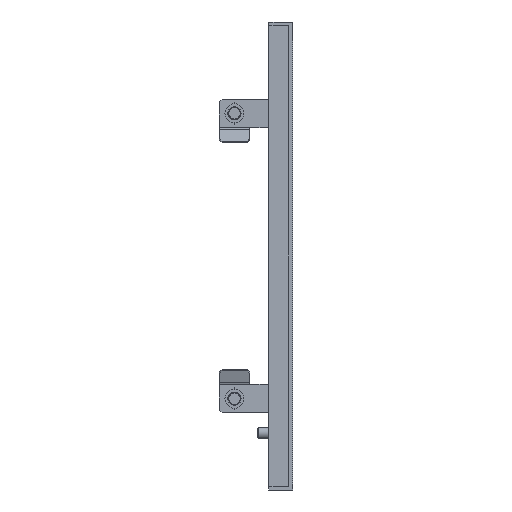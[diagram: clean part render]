
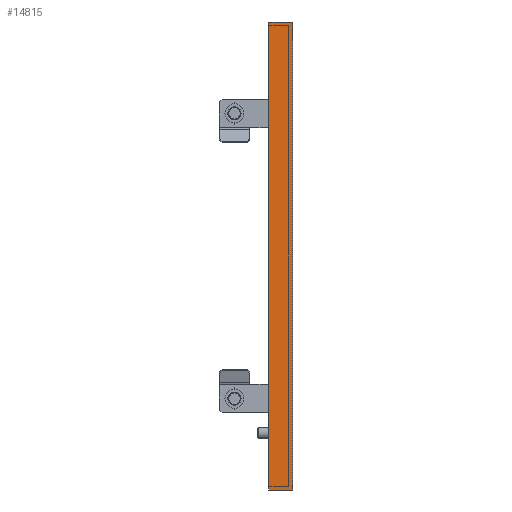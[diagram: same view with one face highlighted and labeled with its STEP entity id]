
A CAD part, front view. The second image highlights one B-rep face of the part: STEP entity #14815.
In plain terms, the highlighted planar face has unit normal (0, -1, 0).
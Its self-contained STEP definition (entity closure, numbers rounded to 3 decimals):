
#689 = VERTEX_POINT ( 'NONE', #23886 ) ;
#1196 = EDGE_CURVE ( 'NONE', #689, #12538, #15122, .T. ) ;
#1793 = CARTESIAN_POINT ( 'NONE',  ( -12.5, -297.5, 0. ) ) ;
#2261 = DIRECTION ( 'NONE',  ( 1., 0., 0. ) ) ;
#2429 = ORIENTED_EDGE ( 'NONE', *, *, #17922, .F. ) ;
#4164 = PLANE ( 'NONE',  #5028 ) ;
#4365 = VECTOR ( 'NONE', #11868, 1000. ) ;
#4954 = EDGE_CURVE ( 'NONE', #14765, #689, #13671, .T. ) ;
#5028 = AXIS2_PLACEMENT_3D ( 'NONE', #11986, #19793, #2261 ) ;
#6787 = CARTESIAN_POINT ( 'NONE',  ( -12.5, -297.5, -123. ) ) ;
#7789 = LINE ( 'NONE', #1793, #15225 ) ;
#8147 = VECTOR ( 'NONE', #12710, 1000. ) ;
#8512 = EDGE_LOOP ( 'NONE', ( #2429, #23612, #18783, #16522 ) ) ;
#11868 = DIRECTION ( 'NONE',  ( 0., 0., 1. ) ) ;
#11986 = CARTESIAN_POINT ( 'NONE',  ( -2., -297.5, 0. ) ) ;
#12538 = VERTEX_POINT ( 'NONE', #16699 ) ;
#12710 = DIRECTION ( 'NONE',  ( -1., 0., 0. ) ) ;
#13207 = CARTESIAN_POINT ( 'NONE',  ( 2.928, -297.5, 123. ) ) ;
#13671 = LINE ( 'NONE', #13919, #4365 ) ;
#13919 = CARTESIAN_POINT ( 'NONE',  ( 0., -297.5, 0. ) ) ;
#14483 = VECTOR ( 'NONE', #15387, 1000. ) ;
#14765 = VERTEX_POINT ( 'NONE', #19658 ) ;
#14815 = ADVANCED_FACE ( 'NONE', ( #21703 ), #4164, .F. ) ;
#15122 = LINE ( 'NONE', #13207, #14483 ) ;
#15225 = VECTOR ( 'NONE', #15871, 1000. ) ;
#15387 = DIRECTION ( 'NONE',  ( -1., 0., 0. ) ) ;
#15871 = DIRECTION ( 'NONE',  ( 0., 0., -1. ) ) ;
#16522 = ORIENTED_EDGE ( 'NONE', *, *, #20735, .T. ) ;
#16699 = CARTESIAN_POINT ( 'NONE',  ( -12.5, -297.5, 123. ) ) ;
#17922 = EDGE_CURVE ( 'NONE', #14765, #23830, #19994, .T. ) ;
#18783 = ORIENTED_EDGE ( 'NONE', *, *, #1196, .T. ) ;
#19658 = CARTESIAN_POINT ( 'NONE',  ( 0., -297.5, -123. ) ) ;
#19793 = DIRECTION ( 'NONE',  ( 0., 1., 0. ) ) ;
#19994 = LINE ( 'NONE', #20498, #8147 ) ;
#20498 = CARTESIAN_POINT ( 'NONE',  ( 2.928, -297.5, -123. ) ) ;
#20735 = EDGE_CURVE ( 'NONE', #12538, #23830, #7789, .T. ) ;
#21703 = FACE_OUTER_BOUND ( 'NONE', #8512, .T. ) ;
#23612 = ORIENTED_EDGE ( 'NONE', *, *, #4954, .T. ) ;
#23830 = VERTEX_POINT ( 'NONE', #6787 ) ;
#23886 = CARTESIAN_POINT ( 'NONE',  ( 0., -297.5, 123. ) ) ;
